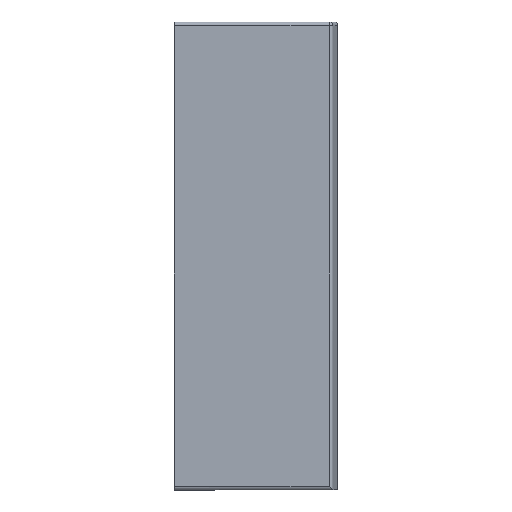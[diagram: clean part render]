
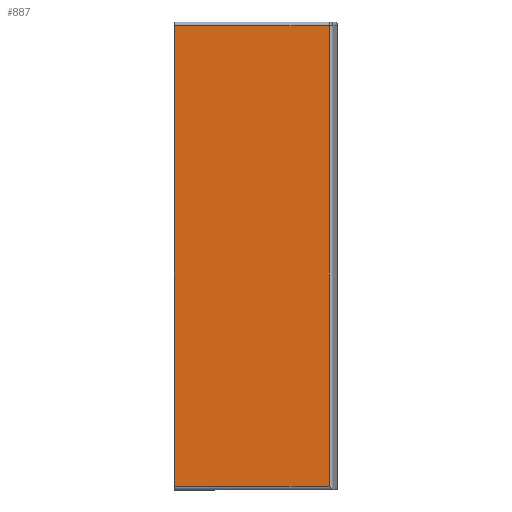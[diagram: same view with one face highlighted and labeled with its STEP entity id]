
A CAD part, top view. The second image highlights one B-rep face of the part: STEP entity #887.
In plain terms, the highlighted planar face has unit normal (0, 0, 1).
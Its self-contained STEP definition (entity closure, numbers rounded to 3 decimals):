
#69 = DIRECTION ( 'NONE',  ( 0., -1., 0. ) ) ;
#111 = DIRECTION ( 'NONE',  ( 0., 1., 0. ) ) ;
#350 = ORIENTED_EDGE ( 'NONE', *, *, #3866, .T. ) ;
#443 = EDGE_CURVE ( 'NONE', #985, #1038, #664, .T. ) ;
#487 = PLANE ( 'NONE',  #2661 ) ;
#525 = CARTESIAN_POINT ( 'NONE',  ( 67.6, -12.7, 1.5 ) ) ;
#637 = CARTESIAN_POINT ( 'NONE',  ( 76.6, -12.7, 1.5 ) ) ;
#664 = LINE ( 'NONE', #3884, #3830 ) ;
#691 = CARTESIAN_POINT ( 'NONE',  ( 67.6, 12.9, 1.5 ) ) ;
#753 = CARTESIAN_POINT ( 'NONE',  ( 76.6, 12.7, 1.5 ) ) ;
#758 = VECTOR ( 'NONE', #69, 1000. ) ;
#792 = DIRECTION ( 'NONE',  ( -1., 0., 0. ) ) ;
#887 = ADVANCED_FACE ( 'NONE', ( #1759 ), #487, .F. ) ;
#985 = VERTEX_POINT ( 'NONE', #2687 ) ;
#1038 = VERTEX_POINT ( 'NONE', #2074 ) ;
#1190 = VERTEX_POINT ( 'NONE', #525 ) ;
#1363 = VECTOR ( 'NONE', #2915, 1000. ) ;
#1423 = VECTOR ( 'NONE', #2801, 1000. ) ;
#1710 = CARTESIAN_POINT ( 'NONE',  ( 76.6, 12.9, 1.5 ) ) ;
#1738 = EDGE_CURVE ( 'NONE', #3508, #1190, #3931, .T. ) ;
#1759 = FACE_OUTER_BOUND ( 'NONE', #3310, .T. ) ;
#2074 = CARTESIAN_POINT ( 'NONE',  ( 76.136, 12.7, 1.5 ) ) ;
#2097 = LINE ( 'NONE', #753, #1363 ) ;
#2123 = EDGE_CURVE ( 'NONE', #1190, #985, #2978, .T. ) ;
#2652 = DIRECTION ( 'NONE',  ( 0., 0., -1. ) ) ;
#2661 = AXIS2_PLACEMENT_3D ( 'NONE', #1710, #2652, #792 ) ;
#2687 = CARTESIAN_POINT ( 'NONE',  ( 76.136, -12.7, 1.5 ) ) ;
#2696 = ORIENTED_EDGE ( 'NONE', *, *, #443, .T. ) ;
#2801 = DIRECTION ( 'NONE',  ( 1., 0., 0. ) ) ;
#2915 = DIRECTION ( 'NONE',  ( -1., 0., 0. ) ) ;
#2978 = LINE ( 'NONE', #637, #1423 ) ;
#3283 = ORIENTED_EDGE ( 'NONE', *, *, #1738, .T. ) ;
#3310 = EDGE_LOOP ( 'NONE', ( #3283, #3887, #2696, #350 ) ) ;
#3355 = CARTESIAN_POINT ( 'NONE',  ( 67.6, 12.7, 1.5 ) ) ;
#3508 = VERTEX_POINT ( 'NONE', #3355 ) ;
#3830 = VECTOR ( 'NONE', #111, 1000. ) ;
#3866 = EDGE_CURVE ( 'NONE', #1038, #3508, #2097, .T. ) ;
#3884 = CARTESIAN_POINT ( 'NONE',  ( 76.136, 12.9, 1.5 ) ) ;
#3887 = ORIENTED_EDGE ( 'NONE', *, *, #2123, .T. ) ;
#3931 = LINE ( 'NONE', #691, #758 ) ;
